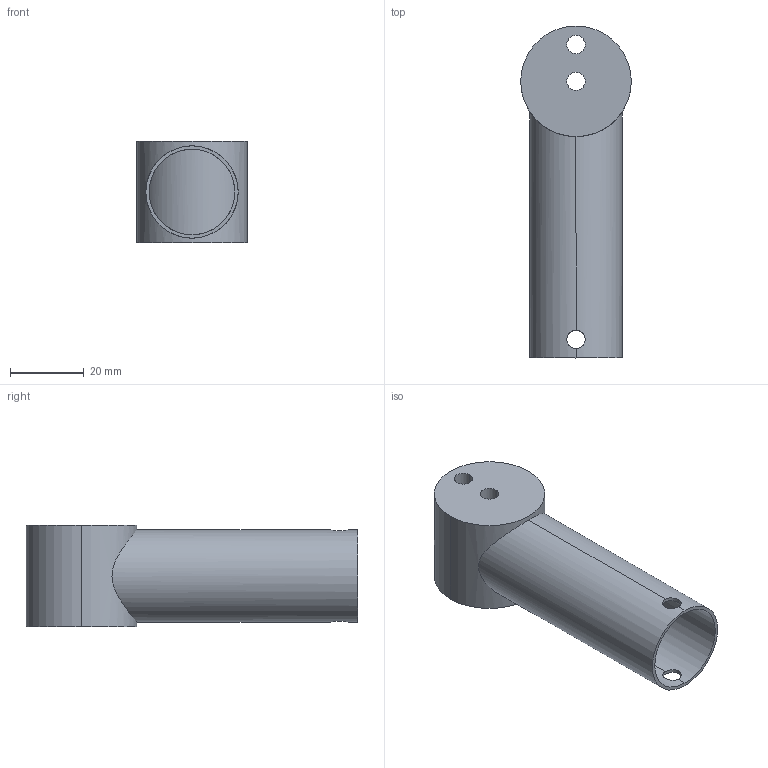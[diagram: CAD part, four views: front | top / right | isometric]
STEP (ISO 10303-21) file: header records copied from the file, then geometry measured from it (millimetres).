
FILE_DESCRIPTION (( 'STEP AP214' ), '1' );
FILE_NAME ('Rotating Cylinder.STEP', '2021-10-04T05:58:40', ( '' ), ( '' ), 'SwSTEP 2.0', 'SolidWorks 2021', '' );
FILE_SCHEMA (( 'AUTOMOTIVE_DESIGN' ));
Length unit declared in the file: millimetre
Products named in the file (1): Rotating Cylinder
Bounding box: 30 x 90 x 27.5 mm (x, y, z)
Volume: 22605.7 mm3; surface area: 14240.4 mm2
Topology: 1 solids, 1 shells, 18 faces, 54 edges, 36 vertices
Faces by surface type: cylinder 15, plane 3
Entity records: 1080 total; most frequent: CARTESIAN_POINT 565, ORIENTED_EDGE 108, DIRECTION 88, EDGE_CURVE 54, VERTEX_POINT 36, AXIS2_PLACEMENT_3D 35, EDGE_LOOP 24, B_SPLINE_CURVE_WITH_KNOTS 20
